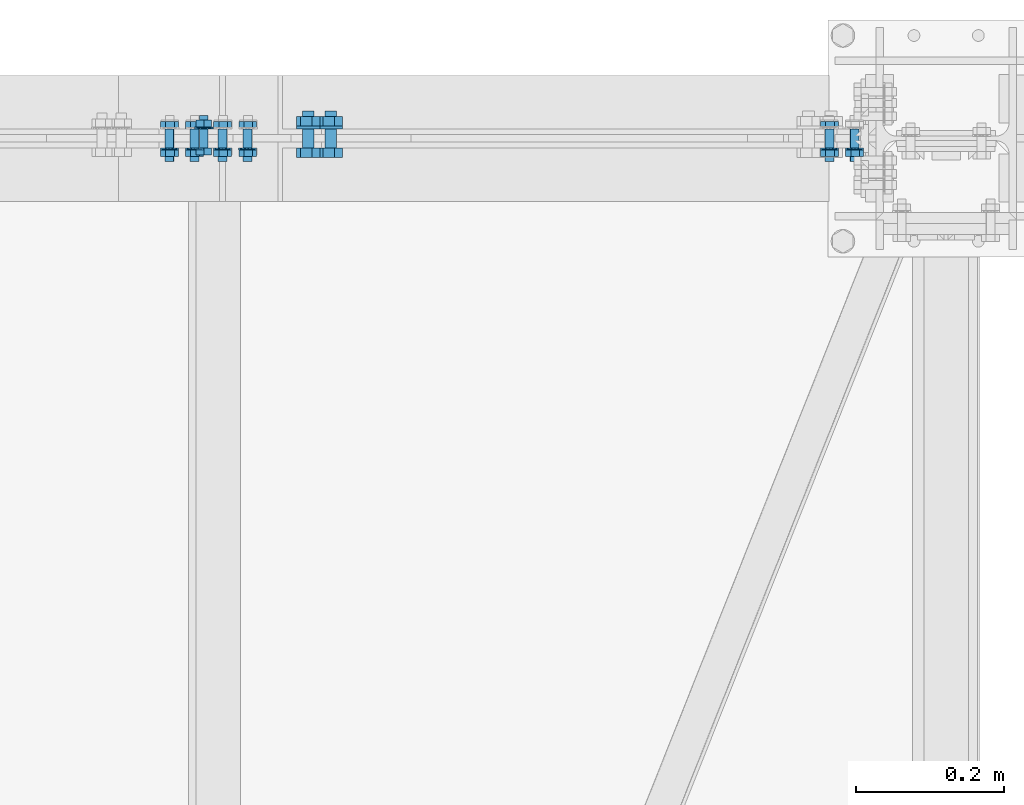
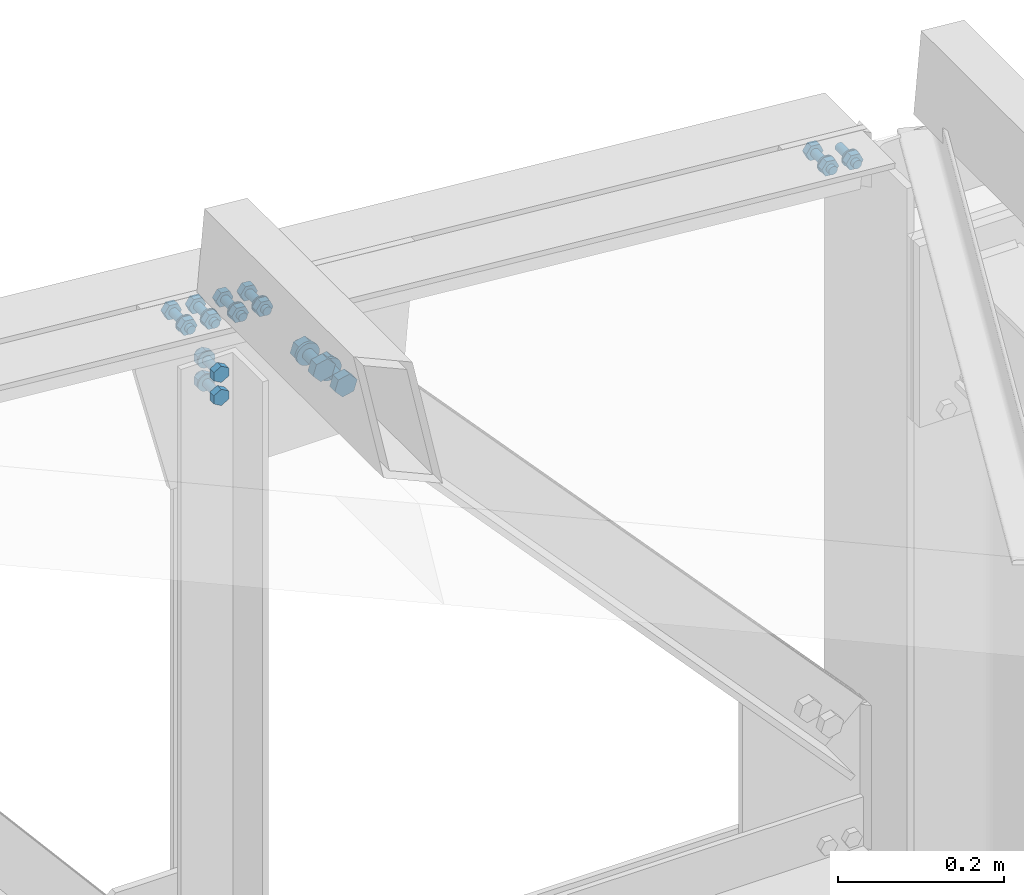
# One storey, part 225 of 251: 39 mechanical fasteners.
"""IFC4 building model written with IfcOpenShell, lengths in metres."""

from ifc_helpers import new_model, si_unit, frame, origin_with_axes, place, context, project, spatial, polyline, outline, extrude, type_object, element, save


model = new_model("IFC4")

# Units and contexts
model_context = context("Model", 3, precision=1e-05, world=origin_with_axes())
ifc_project = project(units=[si_unit("LENGTHUNIT", "METRE"), si_unit("AREAUNIT", "SQUARE_METRE"), si_unit("VOLUMEUNIT", "CUBIC_METRE"), si_unit("MASSUNIT", "GRAM", prefix="KILO"), si_unit("TIMEUNIT", "SECOND"), si_unit("PLANEANGLEUNIT", "RADIAN"), si_unit("SOLIDANGLEUNIT", "STERADIAN"), si_unit("THERMODYNAMICTEMPERATUREUNIT", "DEGREE_CELSIUS")], contexts=[model_context])

# Site, building, storey
placement_1 = place(None, origin_with_axes())
site = spatial("IfcSite", under=ifc_project, at=placement_1, Name="Italia", CompositionType="ELEMENT")
building = spatial("IfcBuilding", under=site, at=placement_1, Name="Deposito", CompositionType="ELEMENT")
storey = spatial("IfcBuildingStorey", under=building, at=placement_1, Name="Storey 0", CompositionType="ELEMENT", Elevation=0.0)

# Mechanical fasteners
mechanical_fastener_type_1 = type_object("IfcMechanicalFastenerType", Name="Reticolare 6", PredefinedType="BOLT")
placement_2 = place(placement_1, origin_with_axes())
mechanical_fastener_1_placement = place(placement_2, origin_with_axes())
element("IfcMechanicalFastener", 1, at=mechanical_fastener_1_placement, inside=storey, type_object=mechanical_fastener_type_1, Name="Reticolare 6", NominalDiameter=0.012, context=model_context, shape_type="SweptSolid", body=[
    extrude(outline(polyline([(0.0, 0.0), (-0.000204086, -0.00155306), (-0.000804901, -0.00299978), (-0.00175858, -0.00424242), (-0.00300026, -0.00519609), (-0.00444794, -0.00579548), (-0.00600052, -0.00600004), (-0.0075531, -0.00579548), (-0.00900078, -0.00519609), (-0.0102425, -0.00424242), (-0.0111961, -0.00299978), (-0.011797, -0.00155306), (-0.012001, 0.0), (-0.011797, 0.00155306), (-0.0111961, 0.00299978), (-0.0102425, 0.00424242), (-0.00900078, 0.00519609), (-0.0075531, 0.00579548), (-0.00600052, 0.00600004), (-0.00444794, 0.00579548), (-0.00300026, 0.00519609), (-0.00175858, 0.00424242), (-0.000804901, 0.00299978), (-0.000204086, 0.00155306), (0.0, 0.0)])), frame((19.8702, 19.969, 6.0038), z_axis=(0.0, 1.0, 0.0), x_axis=(-1.0, 0.0, 0.0)), (0.0, 0.0, 1.0), 0.0440006),
])
mechanical_fastener_type_2 = type_object("IfcMechanicalFastenerType", Name="Reticolare 6", PredefinedType="BOLT")
mechanical_fastener_2_placement = place(placement_2, origin_with_axes())
element("IfcMechanicalFastener", 2, at=mechanical_fastener_2_placement, inside=storey, type_object=mechanical_fastener_type_2, Name="Reticolare 6", NominalDiameter=0.011999, context=model_context, shape_type="SweptSolid", body=[
    extrude(outline(polyline([(0.0, 0.0), (0.0119534, 0.00104618), (0.018837, -0.00878382), (0.0137653, -0.0196595), (0.00181198, -0.0207052), (-0.00507164, -0.0108757), (0.0, 0.0)])), frame((19.8831, 19.9754, 6.01363), z_axis=(0.0, 1.0, 0.0), x_axis=(-1.0, 0.0, 0.0)), (0.0, 0.0, 1.0), 0.00959969),
])
mechanical_fastener_type_3 = type_object("IfcMechanicalFastenerType", Name="Reticolare 6", PredefinedType="BOLT")
mechanical_fastener_3_placement = place(placement_2, origin_with_axes())
element("IfcMechanicalFastener", 3, at=mechanical_fastener_3_placement, inside=storey, type_object=mechanical_fastener_type_3, Name="Reticolare 6", NominalDiameter=0.024, context=model_context, shape_type="SweptSolid", body=[
    extrude(outline(polyline([(0.0, 0.0), (-0.000408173, -0.00310564), (-0.00160599, -0.00600004), (-0.00351334, -0.00848532), (-0.00599861, -0.0103922), (-0.00889397, -0.011591), (-0.0119991, -0.0120001), (-0.0151043, -0.011591), (-0.0179996, -0.0103922), (-0.0204849, -0.00848532), (-0.0223923, -0.00600004), (-0.0235901, -0.00310564), (-0.0239983, 0.0), (-0.0235901, 0.00310564), (-0.0223923, 0.00600004), (-0.0204849, 0.00848532), (-0.0179996, 0.0103922), (-0.0151043, 0.011591), (-0.0119991, 0.0120001), (-0.00889397, 0.011591), (-0.00599861, 0.0103922), (-0.00351334, 0.00848532), (-0.00160599, 0.00600004), (-0.000408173, 0.00310564), (0.0, 0.0)])), frame((19.8642, 19.985, 6.0038), z_axis=(0.0, 1.0, 0.0), x_axis=(-1.0, 0.0, 0.0)), (0.0, 0.0, 1.0), 0.0019989),
])
mechanical_fastener_type_4 = type_object("IfcMechanicalFastenerType", Name="Reticolare 6", PredefinedType="BOLT")
mechanical_fastener_4_placement = place(placement_2, origin_with_axes())
element("IfcMechanicalFastener", 4, at=mechanical_fastener_4_placement, inside=storey, type_object=mechanical_fastener_type_4, Name="Reticolare 6", NominalDiameter=0.011999, context=model_context, shape_type="SweptSolid", body=[
    extrude(outline(polyline([(0.0, 0.0), (0.0119534, 0.0010457), (0.018837, -0.00878429), (0.0137653, -0.01966), (0.00181198, -0.0207057), (-0.00507164, -0.0108757), (0.0, 0.0)])), frame((19.8492, 20.013, 6.0166), z_axis=(0.0, 1.0, 0.0), x_axis=(-1.0, 0.0, 0.0)), (0.0, 0.0, 1.0), 0.00959969),
])
mechanical_fastener_type_5 = type_object("IfcMechanicalFastenerType", Name="Reticolare 6", PredefinedType="BOLT")
mechanical_fastener_5_placement = place(placement_2, origin_with_axes())
element("IfcMechanicalFastener", 5, at=mechanical_fastener_5_placement, inside=storey, type_object=mechanical_fastener_type_5, Name="Reticolare 6", NominalDiameter=0.012, context=model_context, shape_type="SweptSolid", body=[
    extrude(outline(polyline([(0.0, 0.0), (-0.000204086, -0.00155306), (-0.000804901, -0.00299978), (-0.00175858, -0.00424242), (-0.00300026, -0.00519609), (-0.00444794, -0.00579548), (-0.00600052, -0.00600004), (-0.0075531, -0.00579548), (-0.00900078, -0.00519609), (-0.0102425, -0.00424242), (-0.0111961, -0.00299978), (-0.011797, -0.00155306), (-0.012001, 0.0), (-0.011797, 0.00155306), (-0.0111961, 0.00299978), (-0.0102425, 0.00424242), (-0.00900078, 0.00519609), (-0.0075531, 0.00579548), (-0.00600052, 0.00600004), (-0.00444794, 0.00579548), (-0.00300026, 0.00519609), (-0.00175858, 0.00424242), (-0.000804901, 0.00299978), (-0.000204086, 0.00155306), (0.0, 0.0)])), frame((19.8363, 19.969, 6.00677), z_axis=(0.0, 1.0, 0.0), x_axis=(-1.0, 0.0, 0.0)), (0.0, 0.0, 1.0), 0.0440006),
])
mechanical_fastener_type_6 = type_object("IfcMechanicalFastenerType", Name="Reticolare 6", PredefinedType="BOLT")
mechanical_fastener_6_placement = place(placement_2, origin_with_axes())
element("IfcMechanicalFastener", 6, at=mechanical_fastener_6_placement, inside=storey, type_object=mechanical_fastener_type_6, Name="Reticolare 6", NominalDiameter=0.011999, context=model_context, shape_type="SweptSolid", body=[
    extrude(outline(polyline([(0.0, 0.0), (0.0119534, 0.0010457), (0.018837, -0.00878429), (0.0137653, -0.01966), (0.00181198, -0.0207057), (-0.00507164, -0.0108757), (0.0, 0.0)])), frame((19.8492, 19.9754, 6.0166), z_axis=(0.0, 1.0, 0.0), x_axis=(-1.0, 0.0, 0.0)), (0.0, 0.0, 1.0), 0.00959969),
])
mechanical_fastener_type_7 = type_object("IfcMechanicalFastenerType", Name="Reticolare 6", PredefinedType="BOLT")
mechanical_fastener_7_placement = place(placement_2, origin_with_axes())
element("IfcMechanicalFastener", 7, at=mechanical_fastener_7_placement, inside=storey, type_object=mechanical_fastener_type_7, Name="Reticolare 6", NominalDiameter=0.024, context=model_context, shape_type="SweptSolid", body=[
    extrude(outline(polyline([(0.0, 0.0), (-0.000408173, -0.00310564), (-0.00160599, -0.00600004), (-0.00351334, -0.00848532), (-0.00599861, -0.0103922), (-0.00889397, -0.011591), (-0.0119991, -0.0120001), (-0.0151043, -0.011591), (-0.0179996, -0.0103922), (-0.0204849, -0.00848532), (-0.0223923, -0.00600004), (-0.0235901, -0.00310564), (-0.0239983, 0.0), (-0.0235901, 0.00310564), (-0.0223923, 0.00600004), (-0.0204849, 0.00848532), (-0.0179996, 0.0103922), (-0.0151043, 0.011591), (-0.0119991, 0.0120001), (-0.00889397, 0.011591), (-0.00599861, 0.0103922), (-0.00351334, 0.00848532), (-0.00160599, 0.00600004), (-0.000408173, 0.00310564), (0.0, 0.0)])), frame((19.8303, 19.985, 6.00677), z_axis=(0.0, 1.0, 0.0), x_axis=(-1.0, 0.0, 0.0)), (0.0, 0.0, 1.0), 0.0019989),
])
mechanical_fastener_type_8 = type_object("IfcMechanicalFastenerType", Name="Reticolare 6", PredefinedType="BOLT")
mechanical_fastener_8_placement = place(placement_2, origin_with_axes())
element("IfcMechanicalFastener", 8, at=mechanical_fastener_8_placement, inside=storey, type_object=mechanical_fastener_type_8, Name="Reticolare 6", NominalDiameter=0.011999, context=model_context, shape_type="SweptSolid", body=[
    extrude(outline(polyline([(0.0, 0.0), (0.0119534, 0.00104618), (0.018837, -0.00878382), (0.0137653, -0.0196595), (0.00181198, -0.0207052), (-0.00507164, -0.0108757), (0.0, 0.0)])), frame((18.9911, 20.013, 6.09167), z_axis=(0.0, 1.0, 0.0), x_axis=(-1.0, 0.0, 0.0)), (0.0, 0.0, 1.0), 0.00959969),
])
mechanical_fastener_type_9 = type_object("IfcMechanicalFastenerType", Name="Reticolare 6", PredefinedType="BOLT")
mechanical_fastener_9_placement = place(placement_2, origin_with_axes())
element("IfcMechanicalFastener", 9, at=mechanical_fastener_9_placement, inside=storey, type_object=mechanical_fastener_type_9, Name="Reticolare 6", NominalDiameter=0.012, context=model_context, shape_type="SweptSolid", body=[
    extrude(outline(polyline([(0.0, 0.0), (-0.000204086, -0.00155306), (-0.000804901, -0.00299978), (-0.00175858, -0.00424242), (-0.00300026, -0.00519609), (-0.00444794, -0.00579548), (-0.00600052, -0.00600004), (-0.0075531, -0.00579548), (-0.00900078, -0.00519609), (-0.0102425, -0.00424242), (-0.0111961, -0.00299978), (-0.011797, -0.00155306), (-0.012001, 0.0), (-0.011797, 0.00155306), (-0.0111961, 0.00299978), (-0.0102425, 0.00424242), (-0.00900078, 0.00519609), (-0.0075531, 0.00579548), (-0.00600052, 0.00600004), (-0.00444794, 0.00579548), (-0.00300026, 0.00519609), (-0.00175858, 0.00424242), (-0.000804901, 0.00299978), (-0.000204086, 0.00155306), (0.0, 0.0)])), frame((18.9783, 19.969, 6.08184), z_axis=(0.0, 1.0, 0.0), x_axis=(-1.0, 0.0, 0.0)), (0.0, 0.0, 1.0), 0.0440006),
])
mechanical_fastener_type_10 = type_object("IfcMechanicalFastenerType", Name="Reticolare 6", PredefinedType="BOLT")
mechanical_fastener_10_placement = place(placement_2, origin_with_axes())
element("IfcMechanicalFastener", 10, at=mechanical_fastener_10_placement, inside=storey, type_object=mechanical_fastener_type_10, Name="Reticolare 6", NominalDiameter=0.011999, context=model_context, shape_type="SweptSolid", body=[
    extrude(outline(polyline([(0.0, 0.0), (0.0119534, 0.00104618), (0.018837, -0.00878382), (0.0137653, -0.0196595), (0.00181198, -0.0207052), (-0.00507164, -0.0108757), (0.0, 0.0)])), frame((18.9911, 19.9754, 6.09167), z_axis=(0.0, 1.0, 0.0), x_axis=(-1.0, 0.0, 0.0)), (0.0, 0.0, 1.0), 0.00959969),
])
mechanical_fastener_type_11 = type_object("IfcMechanicalFastenerType", Name="Reticolare 6", PredefinedType="BOLT")
mechanical_fastener_11_placement = place(placement_2, origin_with_axes())
element("IfcMechanicalFastener", 11, at=mechanical_fastener_11_placement, inside=storey, type_object=mechanical_fastener_type_11, Name="Reticolare 6", NominalDiameter=0.024, context=model_context, shape_type="SweptSolid", body=[
    extrude(outline(polyline([(0.0, 0.0), (-0.000408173, -0.00310564), (-0.00160599, -0.00600004), (-0.00351334, -0.00848532), (-0.00599861, -0.0103922), (-0.00889397, -0.011591), (-0.0119991, -0.0120001), (-0.0151043, -0.011591), (-0.0179996, -0.0103922), (-0.0204849, -0.00848532), (-0.0223923, -0.00600004), (-0.0235901, -0.00310564), (-0.0239983, 0.0), (-0.0235901, 0.00310564), (-0.0223923, 0.00600004), (-0.0204849, 0.00848532), (-0.0179996, 0.0103922), (-0.0151043, 0.011591), (-0.0119991, 0.0120001), (-0.00889397, 0.011591), (-0.00599861, 0.0103922), (-0.00351334, 0.00848532), (-0.00160599, 0.00600004), (-0.000408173, 0.00310564), (0.0, 0.0)])), frame((18.9723, 19.985, 6.08184), z_axis=(0.0, 1.0, 0.0), x_axis=(-1.0, 0.0, 0.0)), (0.0, 0.0, 1.0), 0.0019989),
])
mechanical_fastener_type_12 = type_object("IfcMechanicalFastenerType", Name="Reticolare 6", PredefinedType="BOLT")
mechanical_fastener_12_placement = place(placement_2, origin_with_axes())
element("IfcMechanicalFastener", 12, at=mechanical_fastener_12_placement, inside=storey, type_object=mechanical_fastener_type_12, Name="Reticolare 6", NominalDiameter=0.011999, context=model_context, shape_type="SweptSolid", body=[
    extrude(outline(polyline([(0.0, 0.0), (0.0119534, 0.0010457), (0.018837, -0.00878429), (0.0137653, -0.01966), (0.00181198, -0.0207057), (-0.00507164, -0.0108757), (0.0, 0.0)])), frame((18.9573, 20.013, 6.09463), z_axis=(0.0, 1.0, 0.0), x_axis=(-1.0, 0.0, 0.0)), (0.0, 0.0, 1.0), 0.00959969),
])
mechanical_fastener_type_13 = type_object("IfcMechanicalFastenerType", Name="Reticolare 6", PredefinedType="BOLT")
mechanical_fastener_13_placement = place(placement_2, origin_with_axes())
element("IfcMechanicalFastener", 13, at=mechanical_fastener_13_placement, inside=storey, type_object=mechanical_fastener_type_13, Name="Reticolare 6", NominalDiameter=0.012, context=model_context, shape_type="SweptSolid", body=[
    extrude(outline(polyline([(0.0, 0.0), (-0.000204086, -0.00155306), (-0.000804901, -0.00299978), (-0.00175858, -0.00424242), (-0.00300026, -0.00519609), (-0.00444794, -0.00579548), (-0.00600052, -0.00600004), (-0.0075531, -0.00579548), (-0.00900078, -0.00519609), (-0.0102425, -0.00424242), (-0.0111961, -0.00299978), (-0.011797, -0.00155306), (-0.012001, 0.0), (-0.011797, 0.00155306), (-0.0111961, 0.00299978), (-0.0102425, 0.00424242), (-0.00900078, 0.00519609), (-0.0075531, 0.00579548), (-0.00600052, 0.00600004), (-0.00444794, 0.00579548), (-0.00300026, 0.00519609), (-0.00175858, 0.00424242), (-0.000804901, 0.00299978), (-0.000204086, 0.00155306), (0.0, 0.0)])), frame((18.9444, 19.969, 6.0848), z_axis=(0.0, 1.0, 0.0), x_axis=(-1.0, 0.0, 0.0)), (0.0, 0.0, 1.0), 0.0440006),
])
mechanical_fastener_type_14 = type_object("IfcMechanicalFastenerType", Name="Reticolare 6", PredefinedType="BOLT")
mechanical_fastener_14_placement = place(placement_2, origin_with_axes())
element("IfcMechanicalFastener", 14, at=mechanical_fastener_14_placement, inside=storey, type_object=mechanical_fastener_type_14, Name="Reticolare 6", NominalDiameter=0.011999, context=model_context, shape_type="SweptSolid", body=[
    extrude(outline(polyline([(0.0, 0.0), (0.0119534, 0.0010457), (0.018837, -0.00878429), (0.0137653, -0.01966), (0.00181198, -0.0207057), (-0.00507164, -0.0108757), (0.0, 0.0)])), frame((18.9573, 19.9754, 6.09463), z_axis=(0.0, 1.0, 0.0), x_axis=(-1.0, 0.0, 0.0)), (0.0, 0.0, 1.0), 0.00959969),
])
mechanical_fastener_type_15 = type_object("IfcMechanicalFastenerType", Name="Reticolare 6", PredefinedType="BOLT")
mechanical_fastener_15_placement = place(placement_2, origin_with_axes())
element("IfcMechanicalFastener", 15, at=mechanical_fastener_15_placement, inside=storey, type_object=mechanical_fastener_type_15, Name="Reticolare 6", NominalDiameter=0.024, context=model_context, shape_type="SweptSolid", body=[
    extrude(outline(polyline([(0.0, 0.0), (-0.000408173, -0.00310564), (-0.00160599, -0.00600004), (-0.00351334, -0.00848532), (-0.00599861, -0.0103922), (-0.00889397, -0.011591), (-0.0119991, -0.0120001), (-0.0151043, -0.011591), (-0.0179996, -0.0103922), (-0.0204849, -0.00848532), (-0.0223923, -0.00600004), (-0.0235901, -0.00310564), (-0.0239983, 0.0), (-0.0235901, 0.00310564), (-0.0223923, 0.00600004), (-0.0204849, 0.00848532), (-0.0179996, 0.0103922), (-0.0151043, 0.011591), (-0.0119991, 0.0120001), (-0.00889397, 0.011591), (-0.00599861, 0.0103922), (-0.00351334, 0.00848532), (-0.00160599, 0.00600004), (-0.000408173, 0.00310564), (0.0, 0.0)])), frame((18.9384, 19.985, 6.0848), z_axis=(0.0, 1.0, 0.0), x_axis=(-1.0, 0.0, 0.0)), (0.0, 0.0, 1.0), 0.0019989),
])
mechanical_fastener_type_16 = type_object("IfcMechanicalFastenerType", Name="Reticolare 6", PredefinedType="BOLT")
mechanical_fastener_16_placement = place(placement_2, origin_with_axes())
element("IfcMechanicalFastener", 16, at=mechanical_fastener_16_placement, inside=storey, type_object=mechanical_fastener_type_16, Name="Reticolare 6", NominalDiameter=0.011999, context=model_context, shape_type="SweptSolid", body=[
    extrude(outline(polyline([(0.0, 0.0), (0.0119534, 0.0010457), (0.018837, -0.00878429), (0.0137653, -0.01966), (0.00181007, -0.0207057), (-0.00507164, -0.0108757), (0.0, 0.0)])), frame((19.029, 20.013, 6.08836), z_axis=(0.0, 1.0, 0.0), x_axis=(-1.0, 0.0, 0.0)), (0.0, 0.0, 1.0), 0.00959969),
])
mechanical_fastener_type_17 = type_object("IfcMechanicalFastenerType", Name="Reticolare 6", PredefinedType="BOLT")
mechanical_fastener_17_placement = place(placement_2, origin_with_axes())
element("IfcMechanicalFastener", 17, at=mechanical_fastener_17_placement, inside=storey, type_object=mechanical_fastener_type_17, Name="Reticolare 6", NominalDiameter=0.012, context=model_context, shape_type="SweptSolid", body=[
    extrude(outline(polyline([(0.0, 0.0), (-0.000204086, -0.00155306), (-0.000804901, -0.00299978), (-0.00175858, -0.00424242), (-0.00300026, -0.00519609), (-0.00444794, -0.00579548), (-0.00600052, -0.00600004), (-0.0075531, -0.00579548), (-0.00900078, -0.00519609), (-0.0102425, -0.00424242), (-0.0111961, -0.00299978), (-0.011797, -0.00155306), (-0.012001, 0.0), (-0.011797, 0.00155306), (-0.0111961, 0.00299978), (-0.0102425, 0.00424242), (-0.00900078, 0.00519609), (-0.0075531, 0.00579548), (-0.00600052, 0.00600004), (-0.00444794, 0.00579548), (-0.00300026, 0.00519609), (-0.00175858, 0.00424242), (-0.000804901, 0.00299978), (-0.000204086, 0.00155306), (0.0, 0.0)])), frame((19.0161, 19.969, 6.07853), z_axis=(0.0, 1.0, 0.0), x_axis=(-1.0, 0.0, 0.0)), (0.0, 0.0, 1.0), 0.0440006),
])
mechanical_fastener_type_18 = type_object("IfcMechanicalFastenerType", Name="Reticolare 6", PredefinedType="BOLT")
mechanical_fastener_18_placement = place(placement_2, origin_with_axes())
element("IfcMechanicalFastener", 18, at=mechanical_fastener_18_placement, inside=storey, type_object=mechanical_fastener_type_18, Name="Reticolare 6", NominalDiameter=0.011999, context=model_context, shape_type="SweptSolid", body=[
    extrude(outline(polyline([(0.0, 0.0), (0.0119534, 0.0010457), (0.018837, -0.00878429), (0.0137653, -0.01966), (0.00181007, -0.0207057), (-0.00507164, -0.0108757), (0.0, 0.0)])), frame((19.029, 19.9754, 6.08836), z_axis=(0.0, 1.0, 0.0), x_axis=(-1.0, 0.0, 0.0)), (0.0, 0.0, 1.0), 0.00959969),
])
mechanical_fastener_type_19 = type_object("IfcMechanicalFastenerType", Name="Reticolare 6", PredefinedType="BOLT")
mechanical_fastener_19_placement = place(placement_2, origin_with_axes())
element("IfcMechanicalFastener", 19, at=mechanical_fastener_19_placement, inside=storey, type_object=mechanical_fastener_type_19, Name="Reticolare 6", NominalDiameter=0.024, context=model_context, shape_type="SweptSolid", body=[
    extrude(outline(polyline([(0.0, 0.0), (-0.000408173, -0.00310564), (-0.00160599, -0.00600004), (-0.00351334, -0.00848532), (-0.00599861, -0.0103922), (-0.00889397, -0.011591), (-0.0119991, -0.0120001), (-0.0151043, -0.011591), (-0.0179996, -0.0103922), (-0.0204849, -0.00848532), (-0.0223923, -0.00600004), (-0.0235901, -0.00310564), (-0.0239983, 0.0), (-0.0235901, 0.00310564), (-0.0223923, 0.00600004), (-0.0204849, 0.00848532), (-0.0179996, 0.0103922), (-0.0151043, 0.011591), (-0.0119991, 0.0120001), (-0.00889397, 0.011591), (-0.00599861, 0.0103922), (-0.00351334, 0.00848532), (-0.00160599, 0.00600004), (-0.000408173, 0.00310564), (0.0, 0.0)])), frame((19.0101, 19.985, 6.07853), z_axis=(0.0, 1.0, 0.0), x_axis=(-1.0, 0.0, 0.0)), (0.0, 0.0, 1.0), 0.0019989),
])
mechanical_fastener_type_20 = type_object("IfcMechanicalFastenerType", Name="Reticolare 6", PredefinedType="BOLT")
mechanical_fastener_20_placement = place(placement_2, origin_with_axes())
element("IfcMechanicalFastener", 20, at=mechanical_fastener_20_placement, inside=storey, type_object=mechanical_fastener_type_20, Name="Reticolare 6", NominalDiameter=0.011999, context=model_context, shape_type="SweptSolid", body=[
    extrude(outline(polyline([(0.0, 0.0), (0.0119534, 0.0010457), (0.018837, -0.00878382), (0.0137653, -0.0196595), (0.00181007, -0.0207052), (-0.00507164, -0.0108757), (0.0, 0.0)])), frame((19.0629, 20.013, 6.08539), z_axis=(0.0, 1.0, 0.0), x_axis=(-1.0, 0.0, 0.0)), (0.0, 0.0, 1.0), 0.00959969),
])
mechanical_fastener_type_21 = type_object("IfcMechanicalFastenerType", Name="Reticolare 6", PredefinedType="BOLT")
mechanical_fastener_21_placement = place(placement_2, origin_with_axes())
element("IfcMechanicalFastener", 21, at=mechanical_fastener_21_placement, inside=storey, type_object=mechanical_fastener_type_21, Name="Reticolare 6", NominalDiameter=0.012, context=model_context, shape_type="SweptSolid", body=[
    extrude(outline(polyline([(0.0, 0.0), (-0.000204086, -0.00155306), (-0.000804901, -0.00299978), (-0.00175858, -0.00424242), (-0.00300026, -0.00519609), (-0.00444794, -0.00579548), (-0.00600052, -0.00600004), (-0.0075531, -0.00579548), (-0.00900078, -0.00519609), (-0.0102425, -0.00424242), (-0.0111961, -0.00299978), (-0.011797, -0.00155306), (-0.012001, 0.0), (-0.011797, 0.00155306), (-0.0111961, 0.00299978), (-0.0102425, 0.00424242), (-0.00900078, 0.00519609), (-0.0075531, 0.00579548), (-0.00600052, 0.00600004), (-0.00444794, 0.00579548), (-0.00300026, 0.00519609), (-0.00175858, 0.00424242), (-0.000804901, 0.00299978), (-0.000204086, 0.00155306), (0.0, 0.0)])), frame((19.05, 19.969, 6.07556), z_axis=(0.0, 1.0, 0.0), x_axis=(-1.0, 0.0, 0.0)), (0.0, 0.0, 1.0), 0.0440006),
])
mechanical_fastener_type_22 = type_object("IfcMechanicalFastenerType", Name="Reticolare 6", PredefinedType="BOLT")
mechanical_fastener_22_placement = place(placement_2, origin_with_axes())
element("IfcMechanicalFastener", 22, at=mechanical_fastener_22_placement, inside=storey, type_object=mechanical_fastener_type_22, Name="Reticolare 6", NominalDiameter=0.011999, context=model_context, shape_type="SweptSolid", body=[
    extrude(outline(polyline([(0.0, 0.0), (0.0119534, 0.0010457), (0.018837, -0.00878382), (0.0137653, -0.0196595), (0.00181007, -0.0207052), (-0.00507164, -0.0108757), (0.0, 0.0)])), frame((19.0629, 19.9754, 6.08539), z_axis=(0.0, 1.0, 0.0), x_axis=(-1.0, 0.0, 0.0)), (0.0, 0.0, 1.0), 0.00959969),
])
mechanical_fastener_type_23 = type_object("IfcMechanicalFastenerType", Name="Reticolare 6", PredefinedType="BOLT")
mechanical_fastener_23_placement = place(placement_2, origin_with_axes())
element("IfcMechanicalFastener", 23, at=mechanical_fastener_23_placement, inside=storey, type_object=mechanical_fastener_type_23, Name="Reticolare 6", NominalDiameter=0.024, context=model_context, shape_type="SweptSolid", body=[
    extrude(outline(polyline([(0.0, 0.0), (-0.000408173, -0.00310564), (-0.00160599, -0.00600004), (-0.00351334, -0.00848532), (-0.00599861, -0.0103922), (-0.00889397, -0.011591), (-0.0119991, -0.0120001), (-0.0151043, -0.011591), (-0.0179996, -0.0103922), (-0.0204849, -0.00848532), (-0.0223923, -0.00600004), (-0.0235901, -0.00310564), (-0.0239983, 0.0), (-0.0235901, 0.00310564), (-0.0223923, 0.00600004), (-0.0204849, 0.00848532), (-0.0179996, 0.0103922), (-0.0151043, 0.011591), (-0.0119991, 0.0120001), (-0.00889397, 0.011591), (-0.00599861, 0.0103922), (-0.00351334, 0.00848532), (-0.00160599, 0.00600004), (-0.000408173, 0.00310564), (0.0, 0.0)])), frame((19.044, 19.985, 6.07556), z_axis=(0.0, 1.0, 0.0), x_axis=(-1.0, 0.0, 0.0)), (0.0, 0.0, 1.0), 0.0019989),
])
mechanical_fastener_type_24 = type_object("IfcMechanicalFastenerType", Name="Reticolare 6", PredefinedType="BOLT")
mechanical_fastener_24_placement = place(placement_2, origin_with_axes())
element("IfcMechanicalFastener", 24, at=mechanical_fastener_24_placement, inside=storey, type_object=mechanical_fastener_type_24, Name="Reticolare 6", NominalDiameter=0.0120001, context=model_context, shape_type="SweptSolid", body=[
    extrude(outline(polyline([(0.0, 0.0), (0.0, -0.0120001), (-0.0103931, -0.0180001), (-0.0207863, -0.0120001), (-0.0207863, 0.0), (-0.0103931, 0.00600004), (0.0, 0.0)])), frame((19.0072, 19.987, 6.0044), z_axis=(0.0, -1.0, 0.0), x_axis=(1.0, 0.0, 0.0)), (0.0, 0.0, 1.0), 0.00959969),
])
mechanical_fastener_type_25 = type_object("IfcMechanicalFastenerType", Name="Reticolare 6", PredefinedType="BOLT")
mechanical_fastener_25_placement = place(placement_2, origin_with_axes())
element("IfcMechanicalFastener", 25, at=mechanical_fastener_25_placement, inside=storey, type_object=mechanical_fastener_type_25, Name="Reticolare 6", NominalDiameter=0.012, context=model_context, shape_type="SweptSolid", body=[
    extrude(outline(polyline([(0.0, 0.0), (-0.000204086, -0.00155306), (-0.000804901, -0.00299978), (-0.00175858, -0.00424242), (-0.00300026, -0.00519609), (-0.00444794, -0.00579548), (-0.00600052, -0.00600004), (-0.0075531, -0.00579548), (-0.00900078, -0.00519609), (-0.0102425, -0.00424242), (-0.0111961, -0.00299978), (-0.011797, -0.00155306), (-0.012001, 0.0), (-0.011797, 0.00155306), (-0.0111961, 0.00299978), (-0.0102425, 0.00424242), (-0.00900078, 0.00519609), (-0.0075531, 0.00579548), (-0.00600052, 0.00600004), (-0.00444794, 0.00579548), (-0.00300026, 0.00519609), (-0.00175858, 0.00424242), (-0.000804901, 0.00299978), (-0.000204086, 0.00155306), (0.0, 0.0)])), frame((19.0028, 20.031, 5.99839), z_axis=(0.0, -1.0, 0.0), x_axis=(1.0, 0.0, 0.0)), (0.0, 0.0, 1.0), 0.0440006),
])
mechanical_fastener_type_26 = type_object("IfcMechanicalFastenerType", Name="Reticolare 6", PredefinedType="BOLT")
mechanical_fastener_26_placement = place(placement_2, origin_with_axes())
element("IfcMechanicalFastener", 26, at=mechanical_fastener_26_placement, inside=storey, type_object=mechanical_fastener_type_26, Name="Reticolare 6", NominalDiameter=0.0120001, context=model_context, shape_type="SweptSolid", body=[
    extrude(outline(polyline([(0.0, 0.0), (0.0, -0.0120001), (-0.0103931, -0.0180001), (-0.0207863, -0.0120001), (-0.0207863, 0.0), (-0.0103931, 0.00600004), (0.0, 0.0)])), frame((19.0072, 20.0246, 6.0044), z_axis=(0.0, -1.0, 0.0), x_axis=(1.0, 0.0, 0.0)), (0.0, 0.0, 1.0), 0.00959969),
])
mechanical_fastener_type_27 = type_object("IfcMechanicalFastenerType", Name="Reticolare 6", PredefinedType="BOLT")
mechanical_fastener_27_placement = place(placement_2, origin_with_axes())
element("IfcMechanicalFastener", 27, at=mechanical_fastener_27_placement, inside=storey, type_object=mechanical_fastener_type_27, Name="Reticolare 6", NominalDiameter=0.024, context=model_context, shape_type="SweptSolid", body=[
    extrude(outline(polyline([(0.0, 0.0), (-0.000408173, -0.00310564), (-0.00160599, -0.00600004), (-0.00351334, -0.00848532), (-0.00599861, -0.0103922), (-0.00889397, -0.011591), (-0.0119991, -0.0120001), (-0.0151043, -0.011591), (-0.0179996, -0.0103922), (-0.0204849, -0.00848532), (-0.0223923, -0.00600004), (-0.0235901, -0.00310564), (-0.0239983, 0.0), (-0.0235901, 0.00310564), (-0.0223923, 0.00600004), (-0.0204849, 0.00848532), (-0.0179996, 0.0103922), (-0.0151043, 0.011591), (-0.0119991, 0.0120001), (-0.00889397, 0.011591), (-0.00599861, 0.0103922), (-0.00351334, 0.00848532), (-0.00160599, 0.00600004), (-0.000408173, 0.00310564), (0.0, 0.0)])), frame((19.0088, 20.015, 5.99839), z_axis=(0.0, -1.0, 0.0), x_axis=(1.0, 0.0, 0.0)), (0.0, 0.0, 1.0), 0.0019989),
])
mechanical_fastener_type_28 = type_object("IfcMechanicalFastenerType", Name="Reticolare 6", PredefinedType="BOLT")
mechanical_fastener_28_placement = place(placement_2, origin_with_axes())
element("IfcMechanicalFastener", 28, at=mechanical_fastener_28_placement, inside=storey, type_object=mechanical_fastener_type_28, Name="Reticolare 6", NominalDiameter=0.0120001, context=model_context, shape_type="SweptSolid", body=[
    extrude(outline(polyline([(0.0, 0.0), (0.0, -0.0120001), (-0.0103931, -0.0180001), (-0.0207863, -0.0120001), (-0.0207863, 0.0), (-0.0103931, 0.00600004), (0.0, 0.0)])), frame((19.0072, 19.987, 5.9704), z_axis=(0.0, -1.0, 0.0), x_axis=(1.0, 0.0, 0.0)), (0.0, 0.0, 1.0), 0.00959969),
])
mechanical_fastener_type_29 = type_object("IfcMechanicalFastenerType", Name="Reticolare 6", PredefinedType="BOLT")
mechanical_fastener_29_placement = place(placement_2, origin_with_axes())
element("IfcMechanicalFastener", 29, at=mechanical_fastener_29_placement, inside=storey, type_object=mechanical_fastener_type_29, Name="Reticolare 6", NominalDiameter=0.012, context=model_context, shape_type="SweptSolid", body=[
    extrude(outline(polyline([(0.0, 0.0), (-0.000204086, -0.00155306), (-0.000804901, -0.00299978), (-0.00175858, -0.00424242), (-0.00300026, -0.00519609), (-0.00444794, -0.00579548), (-0.00600052, -0.00600004), (-0.0075531, -0.00579548), (-0.00900078, -0.00519609), (-0.0102425, -0.00424242), (-0.0111961, -0.00299978), (-0.011797, -0.00155306), (-0.012001, 0.0), (-0.011797, 0.00155306), (-0.0111961, 0.00299978), (-0.0102425, 0.00424242), (-0.00900078, 0.00519609), (-0.0075531, 0.00579548), (-0.00600052, 0.00600004), (-0.00444794, 0.00579548), (-0.00300026, 0.00519609), (-0.00175858, 0.00424242), (-0.000804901, 0.00299978), (-0.000204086, 0.00155306), (0.0, 0.0)])), frame((19.0028, 20.031, 5.9644), z_axis=(0.0, -1.0, 0.0), x_axis=(1.0, 0.0, 0.0)), (0.0, 0.0, 1.0), 0.0440006),
])
mechanical_fastener_type_30 = type_object("IfcMechanicalFastenerType", Name="Reticolare 6", PredefinedType="BOLT")
mechanical_fastener_30_placement = place(placement_2, origin_with_axes())
element("IfcMechanicalFastener", 30, at=mechanical_fastener_30_placement, inside=storey, type_object=mechanical_fastener_type_30, Name="Reticolare 6", NominalDiameter=0.0120001, context=model_context, shape_type="SweptSolid", body=[
    extrude(outline(polyline([(0.0, 0.0), (0.0, -0.0120001), (-0.0103931, -0.0180001), (-0.0207863, -0.0120001), (-0.0207863, 0.0), (-0.0103931, 0.00600004), (0.0, 0.0)])), frame((19.0072, 20.0246, 5.9704), z_axis=(0.0, -1.0, 0.0), x_axis=(1.0, 0.0, 0.0)), (0.0, 0.0, 1.0), 0.00959969),
])
mechanical_fastener_type_31 = type_object("IfcMechanicalFastenerType", Name="Reticolare 6", PredefinedType="BOLT")
mechanical_fastener_31_placement = place(placement_2, origin_with_axes())
element("IfcMechanicalFastener", 31, at=mechanical_fastener_31_placement, inside=storey, type_object=mechanical_fastener_type_31, Name="Reticolare 6", NominalDiameter=0.024, context=model_context, shape_type="SweptSolid", body=[
    extrude(outline(polyline([(0.0, 0.0), (-0.000408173, -0.00310564), (-0.00160599, -0.00600004), (-0.00351334, -0.00848532), (-0.00599861, -0.0103922), (-0.00889397, -0.011591), (-0.0119991, -0.0120001), (-0.0151043, -0.011591), (-0.0179996, -0.0103922), (-0.0204849, -0.00848532), (-0.0223923, -0.00600004), (-0.0235901, -0.00310564), (-0.0239983, 0.0), (-0.0235901, 0.00310564), (-0.0223923, 0.00600004), (-0.0204849, 0.00848532), (-0.0179996, 0.0103922), (-0.0151043, 0.011591), (-0.0119991, 0.0120001), (-0.00889397, 0.011591), (-0.00599861, 0.0103922), (-0.00351334, 0.00848532), (-0.00160599, 0.00600004), (-0.000408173, 0.00310564), (0.0, 0.0)])), frame((19.0088, 20.015, 5.9644), z_axis=(0.0, -1.0, 0.0), x_axis=(1.0, 0.0, 0.0)), (0.0, 0.0, 1.0), 0.0019989),
])
mechanical_fastener_type_32 = type_object("IfcMechanicalFastenerType", Name="Reticolare 6", PredefinedType="BOLT")
mechanical_fastener_32_placement = place(placement_2, origin_with_axes())
element("IfcMechanicalFastener", 32, at=mechanical_fastener_32_placement, inside=storey, type_object=mechanical_fastener_type_32, Name="Reticolare 6", NominalDiameter=0.0159985, context=model_context, shape_type="SweptSolid", body=[
    extrude(outline(polyline([(0.0, 0.0), (-0.0108089, 0.0117965), (-0.0059967, 0.0270562), (0.00962257, 0.030519), (0.0204334, 0.0187225), (0.0156212, 0.00346327), (0.0, 0.0)])), frame((19.1332, 19.987, 5.94168), z_axis=(0.0, -1.0, 0.0), x_axis=(1.0, 0.0, 0.0)), (0.0, 0.0, 1.0), 0.0128002),
])
mechanical_fastener_type_33 = type_object("IfcMechanicalFastenerType", Name="Reticolare 6", PredefinedType="BOLT")
mechanical_fastener_33_placement = place(placement_2, origin_with_axes())
element("IfcMechanicalFastener", 33, at=mechanical_fastener_33_placement, inside=storey, type_object=mechanical_fastener_type_33, Name="Reticolare 6", NominalDiameter=0.016, context=model_context, shape_type="SweptSolid", body=[
    extrude(outline(polyline([(0.0, 0.0), (-0.000272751, -0.00207043), (-0.00107193, -0.00400019), (-0.00234222, -0.00565672), (-0.00399971, -0.00692797), (-0.00592804, -0.00772762), (-0.00799942, -0.0079999), (-0.0100708, -0.00772762), (-0.0119991, -0.00692797), (-0.0136566, -0.00565672), (-0.0149269, -0.00400019), (-0.0157261, -0.00207043), (-0.0159988, 0.0), (-0.0157261, 0.00207043), (-0.0149269, 0.00400019), (-0.0136566, 0.00565672), (-0.0119991, 0.00692797), (-0.0100708, 0.00772762), (-0.00799942, 0.0079999), (-0.00592804, 0.00772762), (-0.00399971, 0.00692797), (-0.00234222, 0.00565672), (-0.00107193, 0.00400019), (-0.000272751, 0.00207043), (0.0, 0.0)])), frame((19.146, 20.037, 5.95694), z_axis=(0.0, -1.0, 0.0), x_axis=(1.0, 0.0, 0.0)), (0.0, 0.0, 1.0), 0.0500011),
])
mechanical_fastener_type_34 = type_object("IfcMechanicalFastenerType", Name="Reticolare 6", PredefinedType="BOLT")
mechanical_fastener_34_placement = place(placement_2, origin_with_axes())
element("IfcMechanicalFastener", 34, at=mechanical_fastener_34_placement, inside=storey, type_object=mechanical_fastener_type_34, Name="Reticolare 6", NominalDiameter=0.0159985, context=model_context, shape_type="SweptSolid", body=[
    extrude(outline(polyline([(0.0, 0.0), (-0.0108089, 0.0117965), (-0.0059967, 0.0270562), (0.00962257, 0.030519), (0.0204334, 0.0187225), (0.0156212, 0.00346327), (0.0, 0.0)])), frame((19.1332, 20.0298, 5.94168), z_axis=(0.0, -1.0, 0.0), x_axis=(1.0, 0.0, 0.0)), (0.0, 0.0, 1.0), 0.0128002),
])
mechanical_fastener_type_35 = type_object("IfcMechanicalFastenerType", Name="Reticolare 6", PredefinedType="BOLT")
mechanical_fastener_35_placement = place(placement_2, origin_with_axes())
element("IfcMechanicalFastener", 35, at=mechanical_fastener_35_placement, inside=storey, type_object=mechanical_fastener_type_35, Name="Reticolare 6", NominalDiameter=0.032, context=model_context, shape_type="SweptSolid", body=[
    extrude(outline(polyline([(0.0, 0.0), (-0.000545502, -0.00414133), (-0.00214386, -0.0079999), (-0.00468636, -0.0113139), (-0.00800133, -0.0138564), (-0.0118599, -0.0154548), (-0.0160007, -0.0159998), (-0.0201416, -0.0154548), (-0.0240002, -0.0138564), (-0.0273151, -0.0113139), (-0.0298576, -0.0079999), (-0.031456, -0.00414133), (-0.0320015, 0.0), (-0.031456, 0.00414133), (-0.0298576, 0.0079999), (-0.0273151, 0.0113139), (-0.0240002, 0.0138564), (-0.0201416, 0.0154548), (-0.0160007, 0.0159998), (-0.0118599, 0.0154548), (-0.00800133, 0.0138564), (-0.00468636, 0.0113139), (-0.00214386, 0.0079999), (-0.000545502, 0.00414133), (0.0, 0.0)])), frame((19.154, 20.017, 5.95694), z_axis=(0.0, -1.0, 0.0), x_axis=(1.0, 0.0, 0.0)), (0.0, 0.0, 1.0), 0.00399971),
])
mechanical_fastener_type_36 = type_object("IfcMechanicalFastenerType", Name="Reticolare 6", PredefinedType="BOLT")
mechanical_fastener_36_placement = place(placement_2, origin_with_axes())
element("IfcMechanicalFastener", 36, at=mechanical_fastener_36_placement, inside=storey, type_object=mechanical_fastener_type_36, Name="Reticolare 6", NominalDiameter=0.0159985, context=model_context, shape_type="SweptSolid", body=[
    extrude(outline(polyline([(0.0, 0.0), (-0.0108109, 0.0117965), (-0.00599861, 0.0270557), (0.00962257, 0.030519), (0.0204315, 0.0187225), (0.0156193, 0.00346279), (0.0, 0.0)])), frame((19.1636, 19.987, 5.90851), z_axis=(0.0, -1.0, 0.0), x_axis=(1.0, 0.0, 0.0)), (0.0, 0.0, 1.0), 0.0128002),
])
mechanical_fastener_type_37 = type_object("IfcMechanicalFastenerType", Name="Reticolare 6", PredefinedType="BOLT")
mechanical_fastener_37_placement = place(placement_2, origin_with_axes())
element("IfcMechanicalFastener", 37, at=mechanical_fastener_37_placement, inside=storey, type_object=mechanical_fastener_type_37, Name="Reticolare 6", NominalDiameter=0.016, context=model_context, shape_type="SweptSolid", body=[
    extrude(outline(polyline([(0.0, 0.0), (-0.000272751, -0.00207043), (-0.00107193, -0.00400019), (-0.00234222, -0.00565672), (-0.00399971, -0.00692797), (-0.00592804, -0.00772762), (-0.00799942, -0.0079999), (-0.0100708, -0.00772762), (-0.0119991, -0.00692797), (-0.0136566, -0.00565672), (-0.0149269, -0.00400019), (-0.0157261, -0.00207043), (-0.0159988, 0.0), (-0.0157261, 0.00207043), (-0.0149269, 0.00400019), (-0.0136566, 0.00565672), (-0.0119991, 0.00692797), (-0.0100708, 0.00772762), (-0.00799942, 0.0079999), (-0.00592804, 0.00772762), (-0.00399971, 0.00692797), (-0.00234222, 0.00565672), (-0.00107193, 0.00400019), (-0.000272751, 0.00207043), (0.0, 0.0)])), frame((19.1764, 20.037, 5.92377), z_axis=(0.0, -1.0, 0.0), x_axis=(1.0, 0.0, 0.0)), (0.0, 0.0, 1.0), 0.0500011),
])
mechanical_fastener_type_38 = type_object("IfcMechanicalFastenerType", Name="Reticolare 6", PredefinedType="BOLT")
mechanical_fastener_38_placement = place(placement_2, origin_with_axes())
element("IfcMechanicalFastener", 38, at=mechanical_fastener_38_placement, inside=storey, type_object=mechanical_fastener_type_38, Name="Reticolare 6", NominalDiameter=0.0159985, context=model_context, shape_type="SweptSolid", body=[
    extrude(outline(polyline([(0.0, 0.0), (-0.0108109, 0.0117965), (-0.00599861, 0.0270557), (0.00962257, 0.030519), (0.0204315, 0.0187225), (0.0156193, 0.00346279), (0.0, 0.0)])), frame((19.1636, 20.0298, 5.90851), z_axis=(0.0, -1.0, 0.0), x_axis=(1.0, 0.0, 0.0)), (0.0, 0.0, 1.0), 0.0128002),
])
mechanical_fastener_type_39 = type_object("IfcMechanicalFastenerType", Name="Reticolare 6", PredefinedType="BOLT")
mechanical_fastener_39_placement = place(placement_2, origin_with_axes())
element("IfcMechanicalFastener", 39, at=mechanical_fastener_39_placement, inside=storey, type_object=mechanical_fastener_type_39, Name="Reticolare 6", NominalDiameter=0.032, context=model_context, shape_type="SweptSolid", body=[
    extrude(outline(polyline([(0.0, 0.0), (-0.000545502, -0.00414133), (-0.00214386, -0.0079999), (-0.00468636, -0.0113139), (-0.00800133, -0.0138564), (-0.0118599, -0.0154548), (-0.0160007, -0.0159998), (-0.0201416, -0.0154548), (-0.0240002, -0.0138564), (-0.0273151, -0.0113139), (-0.0298576, -0.0079999), (-0.031456, -0.00414133), (-0.0320015, 0.0), (-0.031456, 0.00414133), (-0.0298576, 0.0079999), (-0.0273151, 0.0113139), (-0.0240002, 0.0138564), (-0.0201416, 0.0154548), (-0.0160007, 0.0159998), (-0.0118599, 0.0154548), (-0.00800133, 0.0138564), (-0.00468636, 0.0113139), (-0.00214386, 0.0079999), (-0.000545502, 0.00414133), (0.0, 0.0)])), frame((19.1844, 20.017, 5.92377), z_axis=(0.0, -1.0, 0.0), x_axis=(1.0, 0.0, 0.0)), (0.0, 0.0, 1.0), 0.00399971),
])

save(model, "model.ifc")
